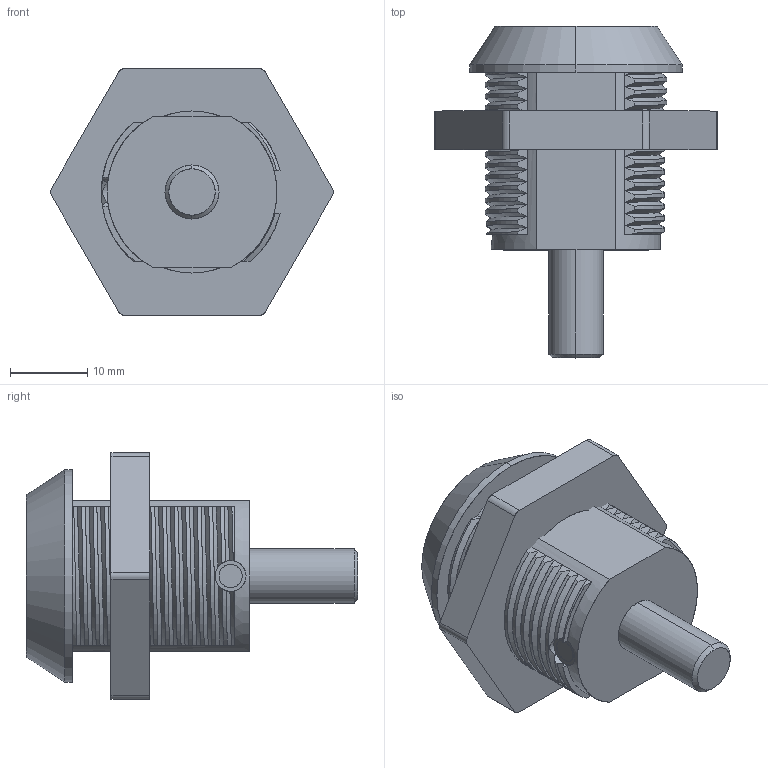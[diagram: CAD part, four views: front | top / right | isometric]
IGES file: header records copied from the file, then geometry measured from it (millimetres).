
Start section: SolidWorks IGES file using analytic representation for surfaces
Global section: file name: 3HD:\尚坤工业图纸\SK1--门锁系列\SK1-009\SK1-009锁住.IGS; native system: SolidWorks 2015; preprocessor: SolidWorks 2015; author: admin; date: 181101.102004; units: millimetre
Bounding box: 36.64 x 43 x 32 mm (x, y, z)
Surface area: 9171.7 mm2 (no closed solid volume)
Topology: 0 solids, 0 shells, 229 faces, 2651 edges, 2649 vertices
Faces by surface type: bspline 134, revolution 95
